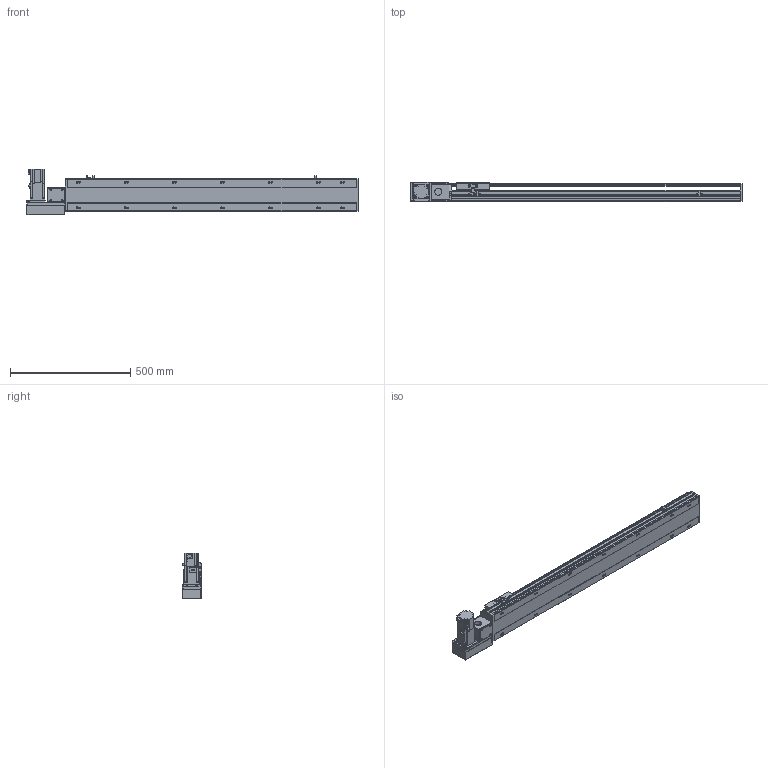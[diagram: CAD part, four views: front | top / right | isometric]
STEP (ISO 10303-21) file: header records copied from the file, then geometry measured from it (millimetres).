
FILE_DESCRIPTION( ( 'STEP AP214' ), '1' );
FILE_NAME( 'x:/temp/worker_27/temp/exporttempdir_6708_296_Y2V78/format_0/PBS140-P40-S950-L-T40-C1-N(0).stp', '2022-06-06T01:01:30', ( 'License CC BY-ND 4.0' ), ( 'CADENAS' ), ' ', 'PARTsolutions', ' ' );
FILE_SCHEMA( ( 'AUTOMOTIVE_DESIGN { 1 0 10303 214 1 1 1 1 }' ) );
Length unit declared in the file: millimetre
Products named in the file (7): PBS140-P40-S950-L-T40-C1-N(0); _PBS140-S950()_body; _PBS140T-L_motors; _T40-p1; _PBS140_sliser; _PBS140_plant; _PBS140_sensor
Assembly tree (8 placements, depth 2):
  PBS140-P40-S950-L-T40-C1-N(0)
    _PBS140-S950()_body
    _PBS140T-L_motors
    _T40-p1
    _PBS140_sliser
    _PBS140_plant
    _PBS140_sensor  x3
Bounding box: 1383 x 80.5 x 189.7 mm (x, y, z)
Volume: 6302778.9 mm3; surface area: 1105244.2 mm2
Topology: 8 solids, 8 shells, 1059 faces, 2796 edges, 1827 vertices
Faces by surface type: plane 686, cylinder 323, cone 40, sphere 8, torus 2
Full cylindrical faces by diameter (mm): 3.242 x4, 4 x2, 4.134 x4, 4.4 x8, 4.5 x2, 4.8 x4, 4.917 x22, 5.5 x7, 6 x2, 7 x16, 7.5 x8, 8 x12, 8.5 x4, 10.5 x14, 14 x1, 30 x2, 50 x2
Entity records: 38647 total; most frequent: CARTESIAN_POINT 6083, DIRECTION 5127, ORIENTED_EDGE 4852, EDGE_CURVE 2426, AXIS2_PLACEMENT_3D 1777, VERTEX_POINT 1677, LINE 1573, VECTOR 1573
